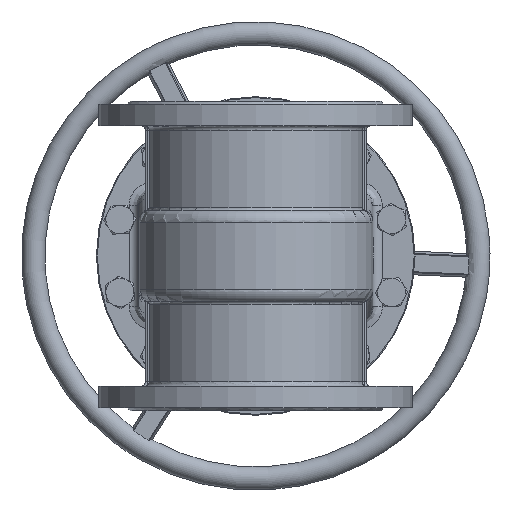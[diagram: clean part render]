
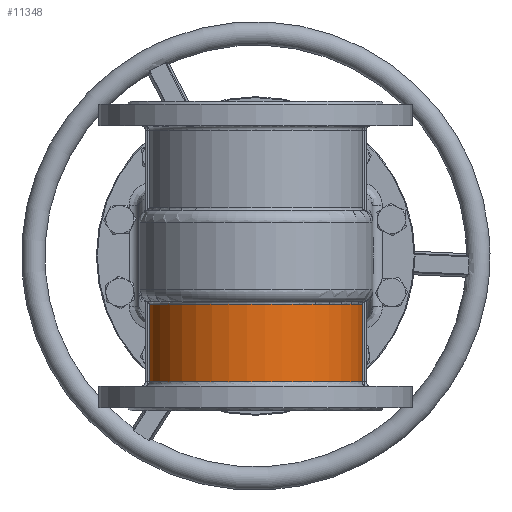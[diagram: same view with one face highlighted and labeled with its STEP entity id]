
A CAD part, front view. The second image highlights one B-rep face of the part: STEP entity #11348.
In plain terms, the highlighted cylindrical face has radius 115 mm (diameter 230 mm), a partial arc.
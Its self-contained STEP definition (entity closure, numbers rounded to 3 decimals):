
#11348=ADVANCED_FACE('',(#24217),#24219,.T.);
#24217=FACE_BOUND('',#24218,.T.);
#24218=EDGE_LOOP('',(#31064,#31065,#31066,#31067));
#24219=CYLINDRICAL_SURFACE('',#24220,115.);
#24220=AXIS2_PLACEMENT_3D('',#24221,#24222,#24223);
#24221=CARTESIAN_POINT('',(0.,0.,-141.));
#24222=DIRECTION('',(0.,0.,1.));
#24223=DIRECTION('',(1.,0.,0.));
#31064=ORIENTED_EDGE('',*,*,#34734,.F.);
#31065=ORIENTED_EDGE('',*,*,#34627,.T.);
#31066=ORIENTED_EDGE('',*,*,#34623,.F.);
#31067=ORIENTED_EDGE('',*,*,#34620,.F.);
#34620=EDGE_CURVE('',#39564,#39567,#39568,.T.);
#34623=EDGE_CURVE('',#39567,#39571,#39572,.T.);
#34627=EDGE_CURVE('',#39575,#39571,#39578,.T.);
#34734=EDGE_CURVE('',#39575,#39564,#39738,.F.);
#39564=VERTEX_POINT('',#74059);
#39567=VERTEX_POINT('',#74064);
#39568=LINE('',#74065,#74066);
#39571=VERTEX_POINT('',#74149);
#39572=CIRCLE('',#74150,115.);
#39575=VERTEX_POINT('',#74225);
#39578=LINE('',#74232,#74233);
#39738=CIRCLE('',#75612,115.);
#74059=CARTESIAN_POINT('',(-113.661,-17.5,-134.));
#74064=CARTESIAN_POINT('',(-113.661,-17.5,-51.492));
#74065=CARTESIAN_POINT('',(-113.661,-17.5,-134.));
#74066=VECTOR('',#74067,1.);
#74067=DIRECTION('',(0.,0.,1.));
#74149=CARTESIAN_POINT('',(113.661,-17.5,-51.492));
#74150=AXIS2_PLACEMENT_3D('',#74151,#74152,#74153);
#74151=CARTESIAN_POINT('',(0.,0.,-51.492));
#74152=DIRECTION('',(0.,0.,1.));
#74153=DIRECTION('',(-0.988,-0.152,0.));
#74225=CARTESIAN_POINT('',(113.661,-17.5,-134.));
#74232=CARTESIAN_POINT('',(113.661,-17.5,-134.));
#74233=VECTOR('',#74234,1.);
#74234=DIRECTION('',(0.,0.,1.));
#75612=AXIS2_PLACEMENT_3D('',#75613,#75614,#75615);
#75613=CARTESIAN_POINT('',(0.,0.,-134.));
#75614=DIRECTION('',(0.,0.,1.));
#75615=DIRECTION('',(-0.988,-0.152,0.));
